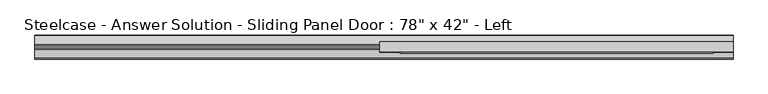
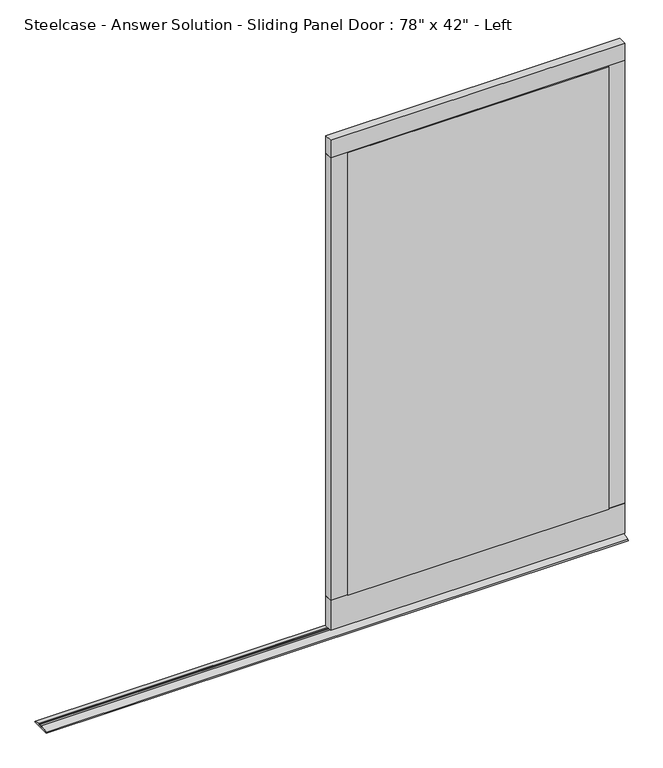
"""IFC4 building model written with IfcOpenShell, lengths in millimetres: furniture geometry."""

from ifc_helpers import new_model, si_unit, frame, origin, place, context, project, spatial, polyline, outline, extrude, source, transform, mapped, element, save


def furniture_a1b3d38d(model_context):
    return source(origin(), model_context, "Body", "SweptSolid", [
        extrude(outline(polyline([(2159.0, -53.9597878), (1041.4, -53.9597878), (1041.4, -22.2097635), (2159.0, -22.2097635), (2159.0, -53.9597878)])), frame((0.0, 0.0, 1915.1589729), z_axis=(0.0, 0.0, 1.0), x_axis=(1.0, 0.0, 0.0)), (0.0, 0.0, 1.0), 69.8499516),
        extrude(outline(polyline([(1104.8999031, -53.9597878), (1041.4, -53.9597878), (1041.4, -22.2097635), (1104.8999031, -22.2097635), (1104.8999031, -53.9597878)])), frame((0.0, 0.0, 137.1589275), z_axis=(0.0, 0.0, 1.0), x_axis=(1.0, 0.0, 0.0)), (0.0, 0.0, 1.0), 1778.0000454),
        extrude(outline(polyline([(2159.0, -53.9597878), (2095.5000969, -53.9597878), (2095.5000969, -22.2097635), (2159.0, -22.2097635), (2159.0, -53.9597878)])), frame((0.0, 0.0, 137.1589275), z_axis=(0.0, 0.0, 1.0), x_axis=(1.0, 0.0, 0.0)), (0.0, 0.0, 1.0), 1778.0000454),
        extrude(outline(polyline([(2159.0, -53.9597878), (1041.4, -53.9597878), (1041.4, -22.2097635), (2159.0, -22.2097635), (2159.0, -53.9597878)])), frame((0.0, 0.0, 16.5089245), z_axis=(0.0, 0.0, 1.0), x_axis=(1.0, 0.0, 0.0)), (0.0, 0.0, 1.0), 120.650003),
        extrude(outline(polyline([(2095.5000969, -53.9597878), (2095.5000969, -57.7514894), (1104.8999031, -57.7514894), (1104.8999031, -53.9597878), (2095.5000969, -53.9597878)])), frame((0.0, 0.0, 137.1589275), z_axis=(0.0, 0.0, 1.0), x_axis=(1.0, 0.0, 0.0)), (0.0, 0.0, 1.0), 1778.0000454),
        extrude(outline(polyline([(-29.8388763, 12.2491055), (-1.9333122, 3.0138476), (0.0, 0.0), (-76.1694786, 0.0), (-74.2361664, 3.0138476), (-46.3306023, 12.2491055), (-46.3306023, 6.2879429), (-39.9806265, 6.2879429), (-39.9806265, 12.6379637), (-36.1889248, 12.6379637), (-36.1889248, 6.2879429), (-29.8388763, 6.2879429), (-29.8388763, 12.2491055)])), frame((-50.8, 0.0, 0.0), z_axis=(1.0, 0.0, 0.0), x_axis=(0.0, 1.0, 0.0)), (0.0, 0.0, 1.0), 2209.8),
    ])


if __name__ == "__main__":
    model = new_model("IFC4")
    model_context = context("Model", 3, world=origin())
    ifc_project = project(units=[si_unit("LENGTHUNIT", "METRE", prefix="MILLI")], contexts=[model_context])
    site = spatial("IfcSite", under=ifc_project)
    building = spatial("IfcBuilding", under=site)
    placement = place(None, origin())
    furniture_shape = furniture_a1b3d38d(model_context)
    element("IfcFurniture", 1, ObjectType="Steelcase - Answer Solution - Sliding Panel Door : 78\" x 42\" - Left", at=placement, inside=building, context=model_context, shape_type="MappedRepresentation", body=[
        mapped(furniture_shape, transform((0.0, 0.0, 0.0), x_axis=(1.0, 0.0, 0.0), y_axis=(0.0, 1.0, 0.0), z_axis=(0.0, 0.0, 1.0))),
    ])
    save(model, "model.ifc")
